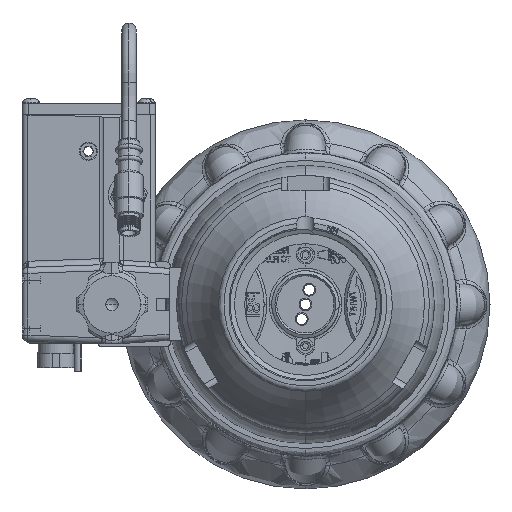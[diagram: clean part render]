
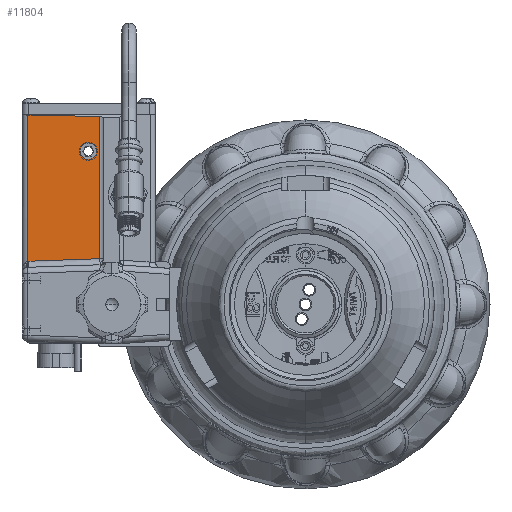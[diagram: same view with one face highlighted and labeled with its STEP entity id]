
A CAD part, left-side view. The second image highlights one B-rep face of the part: STEP entity #11804.
In plain terms, the highlighted planar face has unit normal (-1, 0.018, 0).
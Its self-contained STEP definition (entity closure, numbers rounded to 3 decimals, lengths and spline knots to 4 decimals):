
#2313 = VERTEX_POINT ( 'NONE', #8841 ) ;
#2549 = CARTESIAN_POINT ( 'NONE',  ( 1.2864, 4.6335, 3.15 ) ) ;
#7168 = VECTOR ( 'NONE', #80918, 39.3701 ) ;
#8841 = CARTESIAN_POINT ( 'NONE',  ( 1.2805, 4.2965, 3.15 ) ) ;
#9027 = DIRECTION ( 'NONE',  ( -1., 0.017, 0. ) ) ;
#10344 = ORIENTED_EDGE ( 'NONE', *, *, #98028, .T. ) ;
#10598 = EDGE_CURVE ( 'NONE', #2313, #36541, #77881, .T. ) ;
#11437 = EDGE_LOOP ( 'NONE', ( #98915, #68767 ) ) ;
#11804 = ADVANCED_FACE ( 'NONE', ( #110496, #104943 ), #44591, .T. ) ;
#12557 = CARTESIAN_POINT ( 'NONE',  ( 1.3051, 5.7072, 0.8888 ) ) ;
#13291 = LINE ( 'NONE', #51104, #101779 ) ;
#17770 = VECTOR ( 'NONE', #47687, 39.3701 ) ;
#19756 = VERTEX_POINT ( 'NONE', #12557 ) ;
#26323 = VERTEX_POINT ( 'NONE', #39151 ) ;
#27174 = DIRECTION ( 'NONE',  ( 0.017, 1., 0. ) ) ;
#28530 = CARTESIAN_POINT ( 'NONE',  ( 1.2864, 4.6335, 3.15 ) ) ;
#29153 = CARTESIAN_POINT ( 'NONE',  ( 1.2793, 4.2278, 4.035 ) ) ;
#29683 = CARTESIAN_POINT ( 'NONE',  ( 1.2805, 4.2965, 3.15 ) ) ;
#30366 = ORIENTED_EDGE ( 'NONE', *, *, #107288, .T. ) ;
#30453 = CARTESIAN_POINT ( 'NONE',  ( 1.2864, 4.6335, 2.813 ) ) ;
#35310 = VECTOR ( 'NONE', #111078, 39.3701 ) ;
#36541 = VERTEX_POINT ( 'NONE', #93204 ) ;
#39151 = CARTESIAN_POINT ( 'NONE',  ( 1.3051, 5.7072, 3.8926 ) ) ;
#43284 = EDGE_CURVE ( 'NONE', #44675, #107914, #44551, .T. ) ;
#44551 = LINE ( 'NONE', #29153, #7168 ) ;
#44591 = PLANE ( 'NONE',  #93066 ) ;
#44675 = VERTEX_POINT ( 'NONE', #80048 ) ;
#47687 = DIRECTION ( 'NONE',  ( 0.017, 1., 0.017 ) ) ;
#51104 = CARTESIAN_POINT ( 'NONE',  ( 1.2756, 4.0131, 0.948 ) ) ;
#53710 = CARTESIAN_POINT ( 'NONE',  ( 1.2805, 4.2965, 3.15 ) ) ;
#54854 = CARTESIAN_POINT ( 'NONE',  ( 1.2805, 4.2965, 3.487 ) ) ;
#58838 = LINE ( 'NONE', #110680, #35310 ) ;
#65027 = CARTESIAN_POINT ( 'NONE',  ( 1.2738, 3.9126, 3.8613 ) ) ;
#68767 = ORIENTED_EDGE ( 'NONE', *, *, #10598, .F. ) ;
#71642 = CARTESIAN_POINT ( 'NONE',  ( 1.275, 3.98, 0. ) ) ;
#72227 = ORIENTED_EDGE ( 'NONE', *, *, #43284, .T. ) ;
#72972 = CARTESIAN_POINT ( 'NONE',  ( 1.2864, 4.6335, 3.487 ) ) ;
#74341 = EDGE_LOOP ( 'NONE', ( #72227, #30366, #85411, #10344 ) ) ;
#77881 =( BOUNDED_CURVE ( )  B_SPLINE_CURVE ( 3, ( #53710, #54854, #72972, #28530 ),
 .UNSPECIFIED., .F., .F. ) 
 B_SPLINE_CURVE_WITH_KNOTS ( ( 4, 4 ),
 ( 0., 3.1416 ),
 .UNSPECIFIED. ) 
 CURVE ( )  GEOMETRIC_REPRESENTATION_ITEM ( )  RATIONAL_B_SPLINE_CURVE ( ( 1., 0.333, 0.333, 1. ) ) 
 REPRESENTATION_ITEM ( '' )  );
#80048 = CARTESIAN_POINT ( 'NONE',  ( 1.2793, 4.2278, 0.9405 ) ) ;
#80918 = DIRECTION ( 'NONE',  ( 0., 0., 1. ) ) ;
#85140 = EDGE_CURVE ( 'NONE', #36541, #2313, #112008, .T. ) ;
#85411 = ORIENTED_EDGE ( 'NONE', *, *, #100104, .T. ) ;
#86595 = DIRECTION ( 'NONE',  ( -0.017, -0.999, 0.035 ) ) ;
#88298 = LINE ( 'NONE', #65027, #17770 ) ;
#93066 = AXIS2_PLACEMENT_3D ( 'NONE', #71642, #9027, #27174 ) ;
#93204 = CARTESIAN_POINT ( 'NONE',  ( 1.2864, 4.6335, 3.15 ) ) ;
#98028 = EDGE_CURVE ( 'NONE', #19756, #44675, #13291, .T. ) ;
#98915 = ORIENTED_EDGE ( 'NONE', *, *, #85140, .F. ) ;
#99976 = CARTESIAN_POINT ( 'NONE',  ( 1.2793, 4.2278, 3.8668 ) ) ;
#100104 = EDGE_CURVE ( 'NONE', #26323, #19756, #58838, .T. ) ;
#101779 = VECTOR ( 'NONE', #86595, 39.3701 ) ;
#104943 = FACE_BOUND ( 'NONE', #11437, .T. ) ;
#107288 = EDGE_CURVE ( 'NONE', #107914, #26323, #88298, .T. ) ;
#107914 = VERTEX_POINT ( 'NONE', #99976 ) ;
#109625 = CARTESIAN_POINT ( 'NONE',  ( 1.2805, 4.2965, 2.813 ) ) ;
#110496 = FACE_OUTER_BOUND ( 'NONE', #74341, .T. ) ;
#110680 = CARTESIAN_POINT ( 'NONE',  ( 1.3051, 5.7072, 0.7604 ) ) ;
#111078 = DIRECTION ( 'NONE',  ( 0., 0., -1. ) ) ;
#112008 =( BOUNDED_CURVE ( )  B_SPLINE_CURVE ( 3, ( #2549, #30453, #109625, #29683 ),
 .UNSPECIFIED., .F., .F. ) 
 B_SPLINE_CURVE_WITH_KNOTS ( ( 4, 4 ),
 ( 3.1416, 6.2832 ),
 .UNSPECIFIED. ) 
 CURVE ( )  GEOMETRIC_REPRESENTATION_ITEM ( )  RATIONAL_B_SPLINE_CURVE ( ( 1., 0.333, 0.333, 1. ) ) 
 REPRESENTATION_ITEM ( '' )  );
